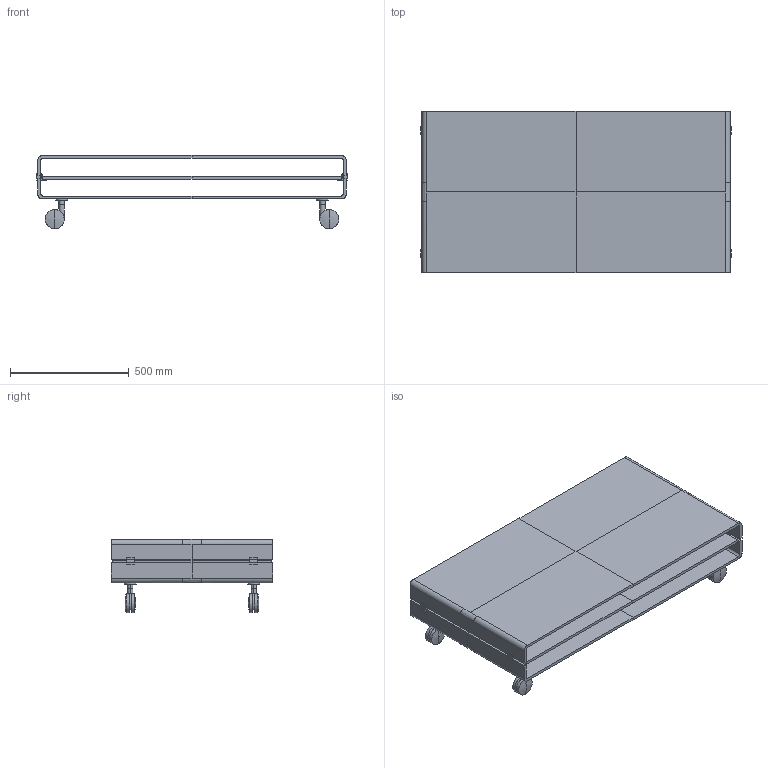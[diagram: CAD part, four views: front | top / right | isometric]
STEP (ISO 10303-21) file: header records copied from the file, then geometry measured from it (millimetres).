
FILE_DESCRIPTION(/* description */ (''),/* implementation_level */ '2;1');
FILE_NAME(/* name */ '203.334 - C&C 130x68 ruote+ripiano',/* time_stamp */ '2010-11-04T09:55:21+01:00',/* author */ (''),/* organization */ (''),/* preprocessor_version */ 'ST-DEVELOPER v10',/* originating_system */ '',/* authorisation */ '');
FILE_SCHEMA (('CONFIG_CONTROL_DESIGN'));
Length unit declared in the file: centimetre
Products named in the file (1): 1
Bounding box: 1308 x 680 x 309 mm (x, y, z)
Volume: 34615554.4 mm3; surface area: 6070147.3 mm2
Topology: 43 solids, 43 shells, 362 faces, 854 edges, 510 vertices
Faces by surface type: plane 190, bspline 172
Entity records: 9608 total; most frequent: CARTESIAN_POINT 4386, ORIENTED_EDGE 1580, EDGE_CURVE 790, B_SPLINE_CURVE_WITH_KNOTS 510, VERTEX_POINT 510, ADVANCED_FACE 362, FACE_OUTER_BOUND 362, EDGE_LOOP 362
